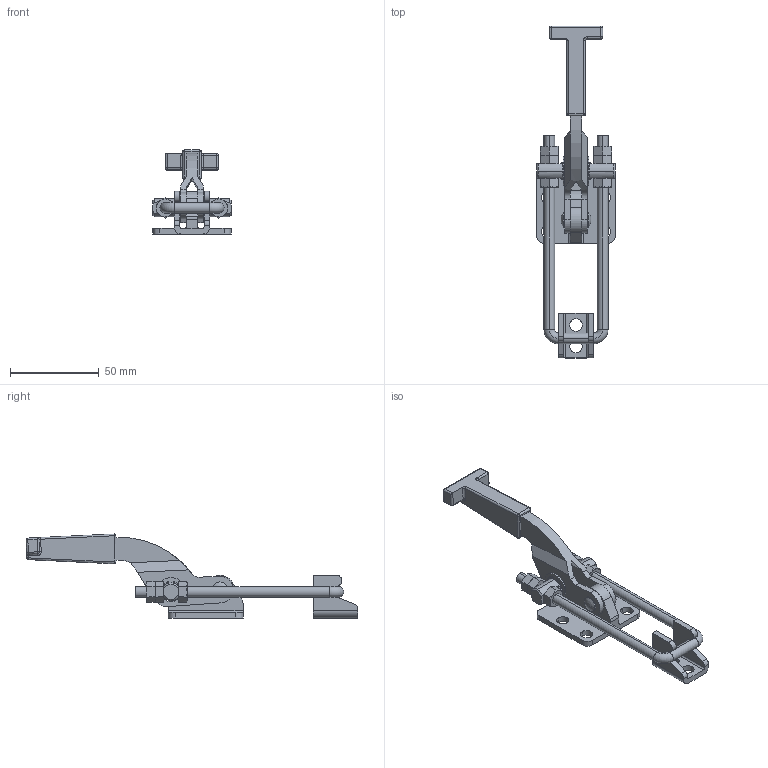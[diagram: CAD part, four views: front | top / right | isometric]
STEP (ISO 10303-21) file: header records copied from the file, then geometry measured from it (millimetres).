
FILE_DESCRIPTION(('CATIA V5 STEP Exchange'),'2;1');
FILE_NAME('D:\Model\toggle\toggle_standard\KJF_032_42FB.stp','2005-06-24T03:17:35+00:00',('none'),('none'),'CATIA Version 5 Release 11 (IN-9)','CATIA V5 STEP AP203',' none');
FILE_SCHEMA(('CONFIG_CONTROL_DESIGN'));
Length unit declared in the file: millimetre
Products named in the file (1): Part1
Bounding box: 44 x 186.47 x 47.22 mm (x, y, z)
Volume: 41134.1 mm3; surface area: 26817.5 mm2
Topology: 15 solids, 15 shells, 352 faces, 901 edges, 569 vertices
Faces by surface type: cylinder 144, plane 139, cone 42, bspline 19, sphere 4, torus 4
Entity records: 11352 total; most frequent: CARTESIAN_POINT 3621, ORIENTED_EDGE 1768, DIRECTION 1194, EDGE_CURVE 884, AXIS2_PLACEMENT_3D 580, VERTEX_POINT 569, EDGE_LOOP 395, VECTOR 366
